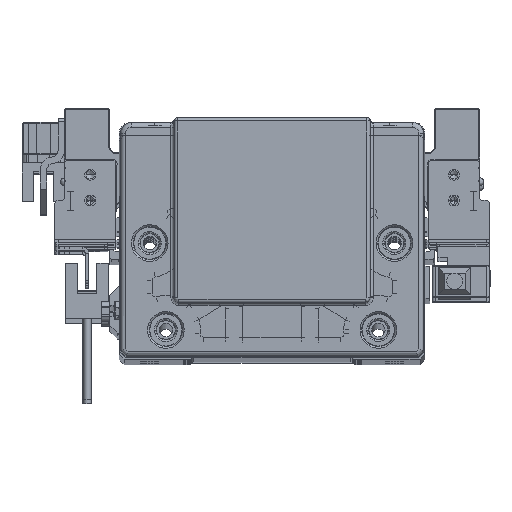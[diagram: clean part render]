
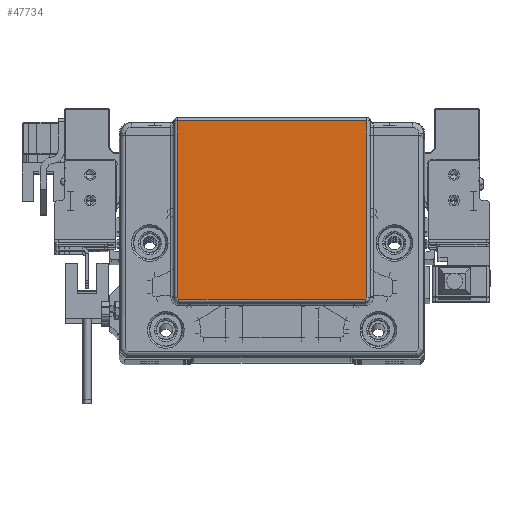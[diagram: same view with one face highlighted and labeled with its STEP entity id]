
A CAD part, top view. The second image highlights one B-rep face of the part: STEP entity #47734.
In plain terms, the highlighted planar face has unit normal (0, 0, 1) as drawn and (0, 0, -1) by its records, which use the part's own axes.
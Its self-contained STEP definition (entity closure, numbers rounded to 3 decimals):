
#943 = CARTESIAN_POINT ( 'NONE',  ( 29.395, -18.93, -2. ) ) ;
#1372 = CARTESIAN_POINT ( 'NONE',  ( -29.435, -18.732, -2. ) ) ;
#1587 = PLANE ( 'NONE',  #27044 ) ;
#2244 = CARTESIAN_POINT ( 'NONE',  ( 29.268, -19.105, -2. ) ) ;
#2660 = CARTESIAN_POINT ( 'NONE',  ( 29.158, -19.18, -2. ) ) ;
#4332 = EDGE_CURVE ( 'NONE', #37793, #34006, #51085, .T. ) ;
#4712 = VERTEX_POINT ( 'NONE', #42680 ) ;
#5625 = ORIENTED_EDGE ( 'NONE', *, *, #7122, .T. ) ;
#7122 = EDGE_CURVE ( 'NONE', #34006, #81279, #7762, .T. ) ;
#7744 = VECTOR ( 'NONE', #84486, 1000. ) ;
#7762 = LINE ( 'NONE', #20488, #73713 ) ;
#8099 = CARTESIAN_POINT ( 'NONE',  ( -29.383, -18.956, -2. ) ) ;
#8821 = CARTESIAN_POINT ( 'NONE',  ( 29.312, -19.063, -2. ) ) ;
#9246 = CARTESIAN_POINT ( 'NONE',  ( 29.399, -18.919, -2. ) ) ;
#12167 = ORIENTED_EDGE ( 'NONE', *, *, #40291, .F. ) ;
#13157 = ORIENTED_EDGE ( 'NONE', *, *, #4332, .T. ) ;
#13380 = CARTESIAN_POINT ( 'NONE',  ( -29.18, -19.169, -2. ) ) ;
#14233 = CARTESIAN_POINT ( 'NONE',  ( -29.051, -19.224, -2. ) ) ;
#14474 = VERTEX_POINT ( 'NONE', #83150 ) ;
#14548 = CARTESIAN_POINT ( 'NONE',  ( 29.354, -19.006, -2. ) ) ;
#14668 = CARTESIAN_POINT ( 'NONE',  ( -29.435, -18.732, -2. ) ) ;
#15832 = CARTESIAN_POINT ( 'NONE',  ( 29.069, -19.218, -2. ) ) ;
#16269 = CARTESIAN_POINT ( 'NONE',  ( 29.378, -18.966, -2. ) ) ;
#20488 = CARTESIAN_POINT ( 'NONE',  ( 0., 36.185, -2. ) ) ;
#20783 = LINE ( 'NONE', #74025, #77150 ) ;
#20809 = CARTESIAN_POINT ( 'NONE',  ( -29.126, -19.195, -2. ) ) ;
#21246 = CARTESIAN_POINT ( 'NONE',  ( -29.169, -19.175, -2. ) ) ;
#21993 = CARTESIAN_POINT ( 'NONE',  ( 29.283, -19.092, -2. ) ) ;
#22413 = CARTESIAN_POINT ( 'NONE',  ( 29.391, -18.939, -2. ) ) ;
#26138 = CARTESIAN_POINT ( 'NONE',  ( 28.935, -19.232, -2. ) ) ;
#26987 = CARTESIAN_POINT ( 'NONE',  ( -29.292, -19.083, -2. ) ) ;
#27044 = AXIS2_PLACEMENT_3D ( 'NONE', #28385, #73275, #66663 ) ;
#27423 = CARTESIAN_POINT ( 'NONE',  ( -29.266, -19.109, -2. ) ) ;
#27848 = CARTESIAN_POINT ( 'NONE',  ( -29.282, -19.093, -2. ) ) ;
#28153 = CARTESIAN_POINT ( 'NONE',  ( 28.935, -19.232, -2. ) ) ;
#28385 = CARTESIAN_POINT ( 'NONE',  ( 0., 0., -2. ) ) ;
#29447 = CARTESIAN_POINT ( 'NONE',  ( 29.343, -19.023, -2. ) ) ;
#34006 = VERTEX_POINT ( 'NONE', #73062 ) ;
#34866 = CARTESIAN_POINT ( 'NONE',  ( -29.121, -19.196, -2. ) ) ;
#36033 = CARTESIAN_POINT ( 'NONE',  ( 29.435, -18.785, -2. ) ) ;
#36559 = CARTESIAN_POINT ( 'NONE',  ( 29.435, 0., -2. ) ) ;
#36597 = CARTESIAN_POINT ( 'NONE',  ( -29.435, 0., -2. ) ) ;
#37793 = VERTEX_POINT ( 'NONE', #1372 ) ;
#39726 = EDGE_CURVE ( 'NONE', #62273, #4712, #47777, .T. ) ;
#40291 = EDGE_CURVE ( 'NONE', #37793, #14474, #50864, .T. ) ;
#41345 = CARTESIAN_POINT ( 'NONE',  ( 29.201, -19.157, -2. ) ) ;
#41469 = CARTESIAN_POINT ( 'NONE',  ( -29.36, -18.998, -2. ) ) ;
#42638 = CARTESIAN_POINT ( 'NONE',  ( 29.247, -19.124, -2. ) ) ;
#42680 = CARTESIAN_POINT ( 'NONE',  ( 29.435, -18.732, -2. ) ) ;
#44722 = EDGE_LOOP ( 'NONE', ( #13157, #5625, #53652, #46683, #73440, #12167 ) ) ;
#46434 = FACE_OUTER_BOUND ( 'NONE', #44722, .T. ) ;
#46683 = ORIENTED_EDGE ( 'NONE', *, *, #39726, .F. ) ;
#47734 = ADVANCED_FACE ( 'NONE', ( #46434 ), #1587, .T. ) ;
#47777 = B_SPLINE_CURVE_WITH_KNOTS ( 'NONE', 3,
 ( #28153, #76083, #15832, #2660, #41345, #42638, #2244, #55837, #21993, #82247, #62444, #75232, #8821, #29447, #14548, #82663, #16269, #49650, #22413, #943, #69482, #9246, #48381, #36033, #56264 ),
 .UNSPECIFIED., .F., .F.,
 ( 4, 2, 1, 1, 1, 1, 2, 2, 2, 2, 2, 1, 2, 2, 4 ),
 ( 0., 0.25, 0.375, 0.438, 0.469, 0.484, 0.492, 0.5, 0.625, 0.688, 0.719, 0.734, 0.742, 0.75, 1. ),
 .UNSPECIFIED. ) ;
#48381 = CARTESIAN_POINT ( 'NONE',  ( 29.427, -18.849, -2. ) ) ;
#49650 = CARTESIAN_POINT ( 'NONE',  ( 29.386, -18.948, -2. ) ) ;
#50864 = B_SPLINE_CURVE_WITH_KNOTS ( 'NONE', 3,
 ( #14668, #81064, #66556, #8099, #41469, #53794, #54650, #59950, #61271, #26987, #67865, #27848, #27423, #60378, #80195, #13380, #21246, #81497, #80636, #67427, #20809, #34866, #14233, #86789, #73169 ),
 .UNSPECIFIED., .F., .F.,
 ( 4, 2, 1, 1, 1, 1, 2, 2, 2, 2, 2, 1, 2, 2, 4 ),
 ( 0., 0.25, 0.375, 0.437, 0.469, 0.484, 0.492, 0.5, 0.625, 0.687, 0.719, 0.734, 0.742, 0.75, 1. ),
 .UNSPECIFIED. ) ;
#51085 = LINE ( 'NONE', #36597, #85745 ) ;
#51674 = DIRECTION ( 'NONE',  ( -1., 0., 0. ) ) ;
#53652 = ORIENTED_EDGE ( 'NONE', *, *, #82796, .T. ) ;
#53794 = CARTESIAN_POINT ( 'NONE',  ( -29.326, -19.044, -2. ) ) ;
#54650 = CARTESIAN_POINT ( 'NONE',  ( -29.308, -19.065, -2. ) ) ;
#55837 = CARTESIAN_POINT ( 'NONE',  ( 29.279, -19.096, -2. ) ) ;
#56264 = CARTESIAN_POINT ( 'NONE',  ( 29.435, -18.732, -2. ) ) ;
#59950 = CARTESIAN_POINT ( 'NONE',  ( -29.299, -19.076, -2. ) ) ;
#60043 = DIRECTION ( 'NONE',  ( 1., 0., 0. ) ) ;
#60378 = CARTESIAN_POINT ( 'NONE',  ( -29.226, -19.14, -2. ) ) ;
#61271 = CARTESIAN_POINT ( 'NONE',  ( -29.294, -19.08, -2. ) ) ;
#62273 = VERTEX_POINT ( 'NONE', #26138 ) ;
#62444 = CARTESIAN_POINT ( 'NONE',  ( 29.288, -19.086, -2. ) ) ;
#63835 = LINE ( 'NONE', #36559, #7744 ) ;
#66556 = CARTESIAN_POINT ( 'NONE',  ( -29.421, -18.866, -2. ) ) ;
#66663 = DIRECTION ( 'NONE',  ( -1., 0., 0. ) ) ;
#67427 = CARTESIAN_POINT ( 'NONE',  ( -29.133, -19.192, -2. ) ) ;
#67865 = CARTESIAN_POINT ( 'NONE',  ( -29.289, -19.086, -2. ) ) ;
#69482 = CARTESIAN_POINT ( 'NONE',  ( 29.397, -18.923, -2. ) ) ;
#73062 = CARTESIAN_POINT ( 'NONE',  ( -29.435, 36.185, -2. ) ) ;
#73169 = CARTESIAN_POINT ( 'NONE',  ( -28.935, -19.232, -2. ) ) ;
#73275 = DIRECTION ( 'NONE',  ( 0., 0., -1. ) ) ;
#73440 = ORIENTED_EDGE ( 'NONE', *, *, #75028, .T. ) ;
#73713 = VECTOR ( 'NONE', #60043, 1000. ) ;
#74025 = CARTESIAN_POINT ( 'NONE',  ( 0., -19.232, -2. ) ) ;
#75028 = EDGE_CURVE ( 'NONE', #62273, #14474, #20783, .T. ) ;
#75232 = CARTESIAN_POINT ( 'NONE',  ( 29.296, -19.079, -2. ) ) ;
#76083 = CARTESIAN_POINT ( 'NONE',  ( 29.003, -19.232, -2. ) ) ;
#77150 = VECTOR ( 'NONE', #51674, 1000. ) ;
#80195 = CARTESIAN_POINT ( 'NONE',  ( -29.209, -19.151, -2. ) ) ;
#80281 = CARTESIAN_POINT ( 'NONE',  ( 29.435, 36.185, -2. ) ) ;
#80636 = CARTESIAN_POINT ( 'NONE',  ( -29.142, -19.188, -2. ) ) ;
#81064 = CARTESIAN_POINT ( 'NONE',  ( -29.435, -18.801, -2. ) ) ;
#81279 = VERTEX_POINT ( 'NONE', #80281 ) ;
#81497 = CARTESIAN_POINT ( 'NONE',  ( -29.151, -19.183, -2. ) ) ;
#82247 = CARTESIAN_POINT ( 'NONE',  ( 29.286, -19.089, -2. ) ) ;
#82663 = CARTESIAN_POINT ( 'NONE',  ( 29.372, -18.977, -2. ) ) ;
#82796 = EDGE_CURVE ( 'NONE', #81279, #4712, #63835, .T. ) ;
#83150 = CARTESIAN_POINT ( 'NONE',  ( -28.935, -19.232, -2. ) ) ;
#84094 = DIRECTION ( 'NONE',  ( 0., 1., 0. ) ) ;
#84486 = DIRECTION ( 'NONE',  ( 0., -1., 0. ) ) ;
#85745 = VECTOR ( 'NONE', #84094, 1000. ) ;
#86789 = CARTESIAN_POINT ( 'NONE',  ( -28.988, -19.232, -2. ) ) ;
